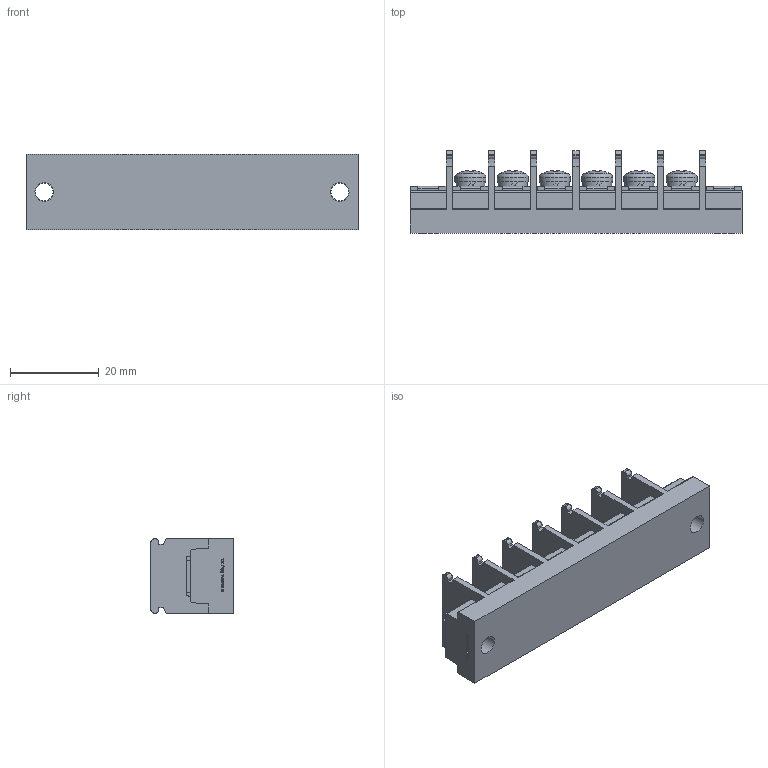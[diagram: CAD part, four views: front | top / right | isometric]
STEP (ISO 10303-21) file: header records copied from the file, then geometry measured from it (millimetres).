
FILE_DESCRIPTION(/* description */ ('Alibre Inc.'),/* implementation_level */ '2;1');
FILE_NAME(/* name */ 'export-EAF0A24B-A5E5-4117-B792-54588841692F',/* time_stamp */ '2021-02-02T10:30:33+09:00',/* author */ (''),/* organization */ (''),/* preprocessor_version */ 'ST-DEVELOPER v17',/* originating_system */ 'Alibre',/* authorisation */ '');
FILE_SCHEMA (('CONFIG_CONTROL_DESIGN'));
Length unit declared in the file: millimetre
Bounding box: 74.7 x 18.5 x 17 mm (x, y, z)
Volume: 12946.6 mm3; surface area: 8253.9 mm2
Topology: 1 solids, 7 shells, 860 faces, 2354 edges, 1564 vertices
Faces by surface type: plane 604, cylinder 104, bspline 104, cone 30, torus 12, sphere 6
Full cylindrical faces by diameter (mm): 4 x14, 4.2 x2, 6.5 x6, 7 x6
Entity records: 26387 total; most frequent: CARTESIAN_POINT 5818, ORIENTED_EDGE 4576, DIRECTION 3338, EDGE_CURVE 2288, VECTOR 1638, LINE 1638, VERTEX_POINT 1538, AXIS2_PLACEMENT_3D 1154
